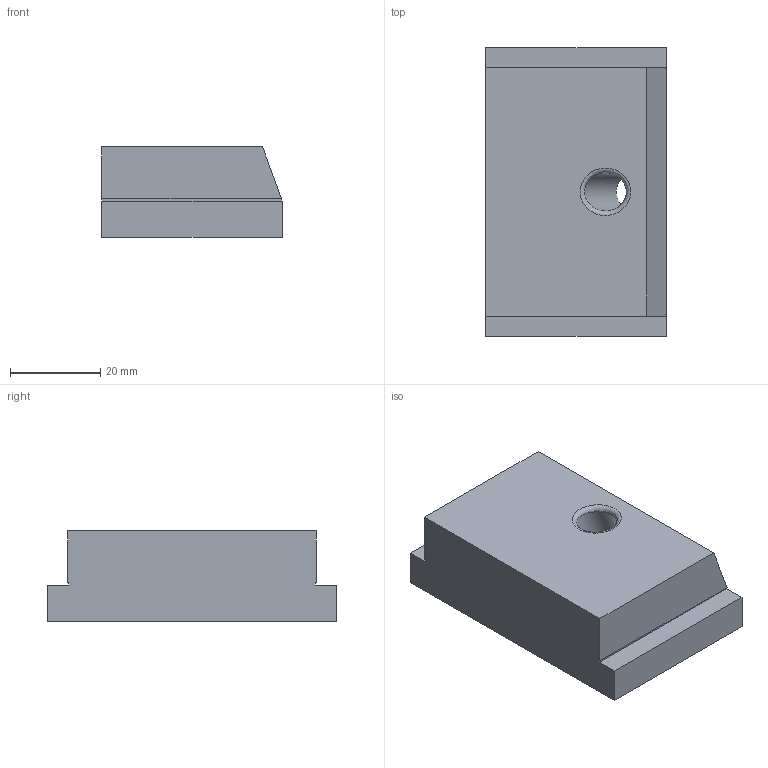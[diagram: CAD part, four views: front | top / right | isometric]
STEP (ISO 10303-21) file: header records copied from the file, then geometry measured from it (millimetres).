
FILE_DESCRIPTION (( 'STEP AP214' ), '1' );
FILE_NAME ('Schieber_-_H20 B55 L40.step', '2024-01-15T11:27:41', ( '' ), ( '' ), 'SwSTEP 2.0', 'SolidWorks 2020', '' );
FILE_SCHEMA (( 'AUTOMOTIVE_DESIGN' ));
Length unit declared in the file: millimetre
Products named in the file (1): Schieber_-_H20 B55 L40
Bounding box: 40 x 64 x 20 mm (x, y, z)
Volume: 44209.3 mm3; surface area: 9297.3 mm2
Topology: 1 solids, 1 shells, 208 faces, 555 edges, 369 vertices
Faces by surface type: plane 120, bspline 87, cylinder 1
Full cylindrical faces by diameter (mm): 8.5 x1
Entity records: 11065 total; most frequent: CARTESIAN_POINT 6448, ORIENTED_EDGE 1106, DIRECTION 622, EDGE_CURVE 553, LINE 378, VECTOR 378, VERTEX_POINT 369, EDGE_LOOP 232
